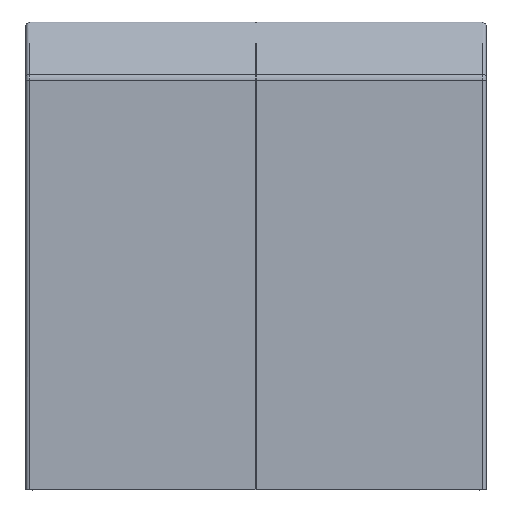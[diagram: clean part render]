
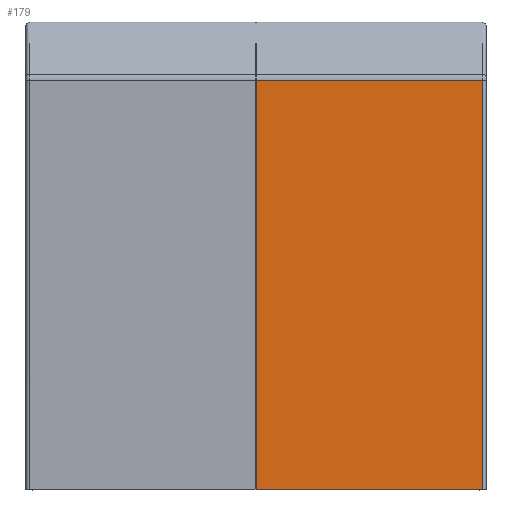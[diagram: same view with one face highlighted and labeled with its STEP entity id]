
A CAD part, front view. The second image highlights one B-rep face of the part: STEP entity #179.
In plain terms, the highlighted free-form (B-spline) face has degree [1, 1] with [2, 2] control points.
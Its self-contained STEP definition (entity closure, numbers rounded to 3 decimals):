
#36=B_SPLINE_SURFACE_WITH_KNOTS($,1,1,((#4560,#4561),(#4562,#4563)),.UNSPECIFIED.,
.F.,.F.,.F.,(2,2),(2,2),(-256.54,0.),(0.,
142.),.UNSPECIFIED.);
#179=ADVANCED_FACE($,(#341),#36,.T.);
#341=FACE_OUTER_BOUND($,#503,.T.);
#503=EDGE_LOOP($,(#1036,#1037,#1038,#1039));
#1036=ORIENTED_EDGE($,*,*,#1609,.F.);
#1037=ORIENTED_EDGE($,*,*,#1610,.F.);
#1038=ORIENTED_EDGE($,*,*,#1602,.T.);
#1039=ORIENTED_EDGE($,*,*,#1603,.T.);
#1602=EDGE_CURVE($,#1918,#1919,#2262,.T.);
#1603=EDGE_CURVE($,#1919,#1908,#2426,.T.);
#1609=EDGE_CURVE($,#1923,#1908,#2266,.T.);
#1610=EDGE_CURVE($,#1918,#1923,#2267,.T.);
#1908=VERTEX_POINT($,#4828);
#1918=VERTEX_POINT($,#4838);
#1919=VERTEX_POINT($,#4839);
#1923=VERTEX_POINT($,#4843);
#2262=B_SPLINE_CURVE_WITH_KNOTS($,1,(#4317,#4318),.UNSPECIFIED.,.F.,.F.,
(2,2),(0.,142.),.UNSPECIFIED.);
#2266=B_SPLINE_CURVE_WITH_KNOTS($,1,(#4336,#4337),.UNSPECIFIED.,.F.,.F.,
(2,2),(797.08,939.08),.UNSPECIFIED.);
#2267=B_SPLINE_CURVE_WITH_KNOTS($,1,(#4338,#4339),.UNSPECIFIED.,.F.,.F.,
(2,2),(540.54,797.08),.UNSPECIFIED.);
#2426=(
BOUNDED_CURVE()
B_SPLINE_CURVE(3,(#4319,#4320,#4321,#4322),.UNSPECIFIED.,.F.,.F.)
B_SPLINE_CURVE_WITH_KNOTS((4,4),(704.831,961.371),.UNSPECIFIED.)
CURVE()
GEOMETRIC_REPRESENTATION_ITEM()
RATIONAL_B_SPLINE_CURVE((1.,1.,1.,1.))
REPRESENTATION_ITEM($)
);
#4317=CARTESIAN_POINT($,(142.,-61.,108.04));
#4318=CARTESIAN_POINT($,(0.,-61.,108.04));
#4319=CARTESIAN_POINT($,(0.,-61.,108.04));
#4320=CARTESIAN_POINT($,(0.,-61.,22.527));
#4321=CARTESIAN_POINT($,(0.,-61.,-62.987));
#4322=CARTESIAN_POINT($,(0.,-61.,-148.5));
#4336=CARTESIAN_POINT($,(142.,-61.,-148.5));
#4337=CARTESIAN_POINT($,(0.,-61.,-148.5));
#4338=CARTESIAN_POINT($,(142.,-61.,108.04));
#4339=CARTESIAN_POINT($,(142.,-61.,-148.5));
#4560=CARTESIAN_POINT($,(0.,-61.,108.04));
#4561=CARTESIAN_POINT($,(142.,-61.,108.04));
#4562=CARTESIAN_POINT($,(0.,-61.,-148.5));
#4563=CARTESIAN_POINT($,(142.,-61.,-148.5));
#4828=CARTESIAN_POINT($,(0.,-61.,-148.5));
#4838=CARTESIAN_POINT($,(142.,-61.,108.04));
#4839=CARTESIAN_POINT($,(0.,-61.,108.04));
#4843=CARTESIAN_POINT($,(142.,-61.,-148.5));
